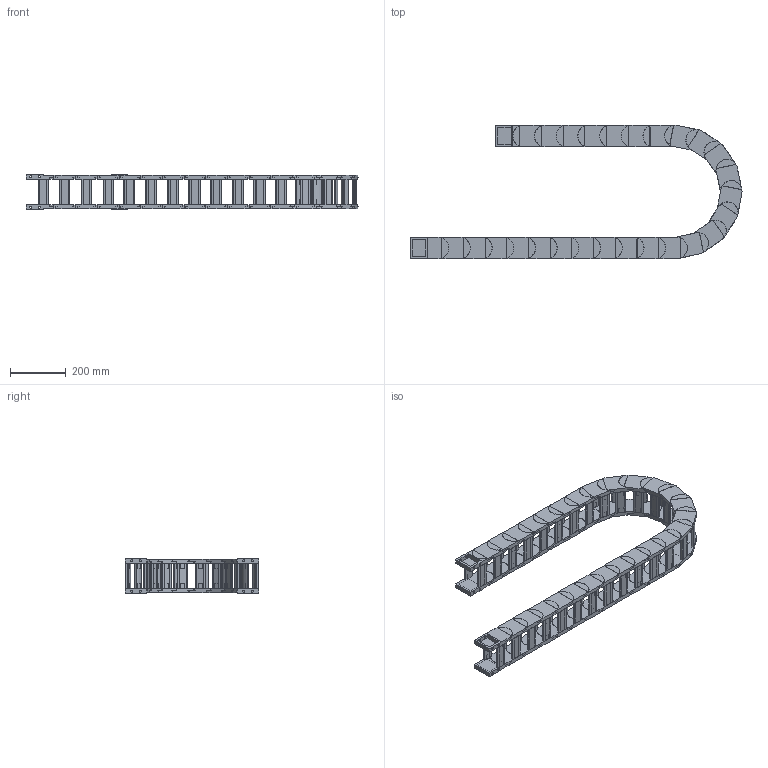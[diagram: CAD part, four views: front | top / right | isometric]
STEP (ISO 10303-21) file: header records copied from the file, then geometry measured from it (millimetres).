
FILE_DESCRIPTION((''),'2;1');
FILE_NAME('HD55-R200-ZPT_ASM','2022-06-17T19:42:54',('admin'),(''),'CREO PARAMETRIC BY PTC INC, 2021164','CREO PARAMETRIC BY PTC INC, 2021164','');
FILE_SCHEMA(('CONFIG_CONTROL_DESIGN','GEOMETRIC_VALIDATION_PROPERTIES_MIM'));
Length unit declared in the file: millimetre
Products named in the file (6): HD-55; 55-500001; HD55_ASM; H55-T1; H55-T2; HD55-R200-ZPT_ASM
Assembly tree (32 placements, depth 3):
  HD55-R200-ZPT_ASM
    HD55_ASM  x26
      HD-55
      55-500001
    H55-T1
    H55-T2
    55-500001  x2
Bounding box: 1186.04 x 475.95 x 122.4 mm (x, y, z)
Volume: 6439733.9 mm3; surface area: 2011191.1 mm2
Topology: 112 solids, 112 shells, 1854 faces, 4758 edges, 3244 vertices
Faces by surface type: plane 1532, cylinder 322
Entity records: 8807 total; most frequent: CARTESIAN_POINT 1300, DIRECTION 1262, ORIENTED_EDGE 1172, EDGE_CURVE 586, AXIS2_PLACEMENT_3D 422, VECTOR 418, LINE 418, VERTEX_POINT 396
